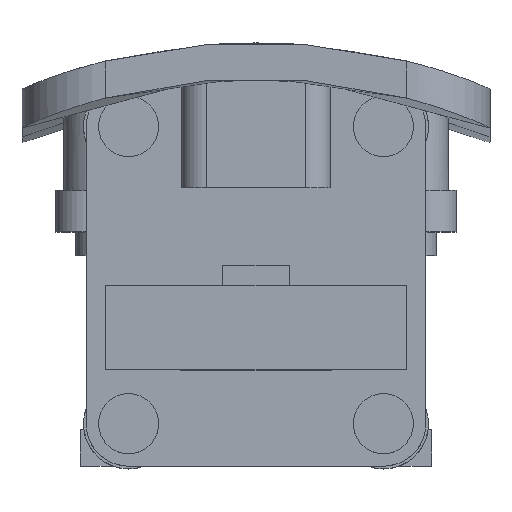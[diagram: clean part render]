
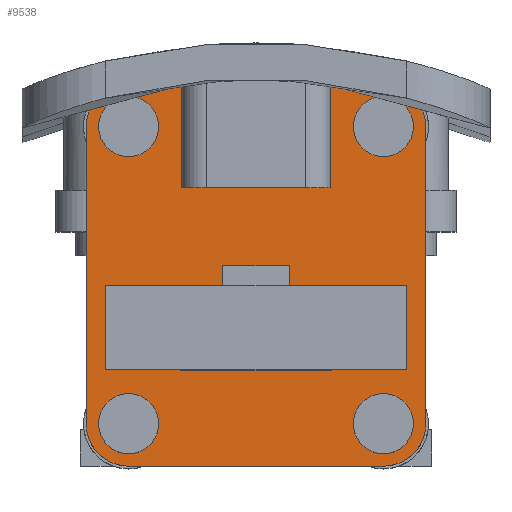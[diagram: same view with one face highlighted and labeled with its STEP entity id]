
A CAD part, top view. The second image highlights one B-rep face of the part: STEP entity #9538.
In plain terms, the highlighted planar face has unit normal (0, 0, 1).
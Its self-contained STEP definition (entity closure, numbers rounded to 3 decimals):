
#9500 = EDGE_CURVE('',#9501,#9503,#9505,.T.);
#9501 = VERTEX_POINT('',#9502);
#9502 = CARTESIAN_POINT('',(-10.16,14.801,130.35));
#9503 = VERTEX_POINT('',#9504);
#9504 = CARTESIAN_POINT('',(-7.62,12.261,130.35));
#9505 = CIRCLE('',#9506,2.54);
#9506 = AXIS2_PLACEMENT_3D('',#9507,#9508,#9509);
#9507 = CARTESIAN_POINT('',(-7.62,14.801,130.35));
#9508 = DIRECTION('',(0.,0.,1.));
#9509 = DIRECTION('',(1.,0.,0.));
#9538 = ADVANCED_FACE('',(#9539,#9599,#9610,#9621,#9632),#9643,.T.);
#9539 = FACE_BOUND('',#9540,.T.);
#9540 = EDGE_LOOP('',(#9541,#9542,#9550,#9559,#9567,#9576,#9584,#9593));
#9541 = ORIENTED_EDGE('',*,*,#9500,.T.);
#9542 = ORIENTED_EDGE('',*,*,#9543,.T.);
#9543 = EDGE_CURVE('',#9503,#9544,#9546,.T.);
#9544 = VERTEX_POINT('',#9545);
#9545 = CARTESIAN_POINT('',(7.62,12.261,130.35));
#9546 = LINE('',#9547,#9548);
#9547 = CARTESIAN_POINT('',(-7.62,12.261,130.35));
#9548 = VECTOR('',#9549,1.);
#9549 = DIRECTION('',(1.,0.,0.));
#9550 = ORIENTED_EDGE('',*,*,#9551,.T.);
#9551 = EDGE_CURVE('',#9544,#9552,#9554,.T.);
#9552 = VERTEX_POINT('',#9553);
#9553 = CARTESIAN_POINT('',(10.16,14.801,130.35));
#9554 = CIRCLE('',#9555,2.54);
#9555 = AXIS2_PLACEMENT_3D('',#9556,#9557,#9558);
#9556 = CARTESIAN_POINT('',(7.62,14.801,130.35));
#9557 = DIRECTION('',(0.,0.,1.));
#9558 = DIRECTION('',(1.,0.,0.));
#9559 = ORIENTED_EDGE('',*,*,#9560,.T.);
#9560 = EDGE_CURVE('',#9552,#9561,#9563,.T.);
#9561 = VERTEX_POINT('',#9562);
#9562 = CARTESIAN_POINT('',(10.16,32.581,130.35));
#9563 = LINE('',#9564,#9565);
#9564 = CARTESIAN_POINT('',(10.16,14.801,130.35));
#9565 = VECTOR('',#9566,1.);
#9566 = DIRECTION('',(0.,1.,0.));
#9567 = ORIENTED_EDGE('',*,*,#9568,.T.);
#9568 = EDGE_CURVE('',#9561,#9569,#9571,.T.);
#9569 = VERTEX_POINT('',#9570);
#9570 = CARTESIAN_POINT('',(7.62,35.121,130.35));
#9571 = CIRCLE('',#9572,2.54);
#9572 = AXIS2_PLACEMENT_3D('',#9573,#9574,#9575);
#9573 = CARTESIAN_POINT('',(7.62,32.581,130.35));
#9574 = DIRECTION('',(0.,0.,1.));
#9575 = DIRECTION('',(1.,0.,0.));
#9576 = ORIENTED_EDGE('',*,*,#9577,.F.);
#9577 = EDGE_CURVE('',#9578,#9569,#9580,.T.);
#9578 = VERTEX_POINT('',#9579);
#9579 = CARTESIAN_POINT('',(-7.62,35.121,130.35));
#9580 = LINE('',#9581,#9582);
#9581 = CARTESIAN_POINT('',(-7.62,35.121,130.35));
#9582 = VECTOR('',#9583,1.);
#9583 = DIRECTION('',(1.,0.,0.));
#9584 = ORIENTED_EDGE('',*,*,#9585,.T.);
#9585 = EDGE_CURVE('',#9578,#9586,#9588,.T.);
#9586 = VERTEX_POINT('',#9587);
#9587 = CARTESIAN_POINT('',(-10.16,32.581,130.35));
#9588 = CIRCLE('',#9589,2.54);
#9589 = AXIS2_PLACEMENT_3D('',#9590,#9591,#9592);
#9590 = CARTESIAN_POINT('',(-7.62,32.581,130.35));
#9591 = DIRECTION('',(0.,0.,1.));
#9592 = DIRECTION('',(1.,0.,0.));
#9593 = ORIENTED_EDGE('',*,*,#9594,.F.);
#9594 = EDGE_CURVE('',#9501,#9586,#9595,.T.);
#9595 = LINE('',#9596,#9597);
#9596 = CARTESIAN_POINT('',(-10.16,14.801,130.35));
#9597 = VECTOR('',#9598,1.);
#9598 = DIRECTION('',(0.,1.,0.));
#9599 = FACE_BOUND('',#9600,.T.);
#9600 = EDGE_LOOP('',(#9601));
#9601 = ORIENTED_EDGE('',*,*,#9602,.F.);
#9602 = EDGE_CURVE('',#9603,#9603,#9605,.T.);
#9603 = VERTEX_POINT('',#9604);
#9604 = CARTESIAN_POINT('',(-6.37,14.801,130.35));
#9605 = CIRCLE('',#9606,1.25);
#9606 = AXIS2_PLACEMENT_3D('',#9607,#9608,#9609);
#9607 = CARTESIAN_POINT('',(-7.62,14.801,130.35));
#9608 = DIRECTION('',(0.,0.,1.));
#9609 = DIRECTION('',(1.,0.,0.));
#9610 = FACE_BOUND('',#9611,.T.);
#9611 = EDGE_LOOP('',(#9612));
#9612 = ORIENTED_EDGE('',*,*,#9613,.F.);
#9613 = EDGE_CURVE('',#9614,#9614,#9616,.T.);
#9614 = VERTEX_POINT('',#9615);
#9615 = CARTESIAN_POINT('',(8.87,14.801,130.35));
#9616 = CIRCLE('',#9617,1.25);
#9617 = AXIS2_PLACEMENT_3D('',#9618,#9619,#9620);
#9618 = CARTESIAN_POINT('',(7.62,14.801,130.35));
#9619 = DIRECTION('',(0.,0.,1.));
#9620 = DIRECTION('',(1.,0.,0.));
#9621 = FACE_BOUND('',#9622,.T.);
#9622 = EDGE_LOOP('',(#9623));
#9623 = ORIENTED_EDGE('',*,*,#9624,.F.);
#9624 = EDGE_CURVE('',#9625,#9625,#9627,.T.);
#9625 = VERTEX_POINT('',#9626);
#9626 = CARTESIAN_POINT('',(-6.37,32.581,130.35));
#9627 = CIRCLE('',#9628,1.25);
#9628 = AXIS2_PLACEMENT_3D('',#9629,#9630,#9631);
#9629 = CARTESIAN_POINT('',(-7.62,32.581,130.35));
#9630 = DIRECTION('',(0.,0.,1.));
#9631 = DIRECTION('',(1.,0.,0.));
#9632 = FACE_BOUND('',#9633,.T.);
#9633 = EDGE_LOOP('',(#9634));
#9634 = ORIENTED_EDGE('',*,*,#9635,.F.);
#9635 = EDGE_CURVE('',#9636,#9636,#9638,.T.);
#9636 = VERTEX_POINT('',#9637);
#9637 = CARTESIAN_POINT('',(8.87,32.581,130.35));
#9638 = CIRCLE('',#9639,1.25);
#9639 = AXIS2_PLACEMENT_3D('',#9640,#9641,#9642);
#9640 = CARTESIAN_POINT('',(7.62,32.581,130.35));
#9641 = DIRECTION('',(0.,0.,1.));
#9642 = DIRECTION('',(1.,0.,0.));
#9643 = PLANE('',#9644);
#9644 = AXIS2_PLACEMENT_3D('',#9645,#9646,#9647);
#9645 = CARTESIAN_POINT('',(0.,23.691,130.35));
#9646 = DIRECTION('',(0.,0.,1.));
#9647 = DIRECTION('',(1.,0.,0.));
